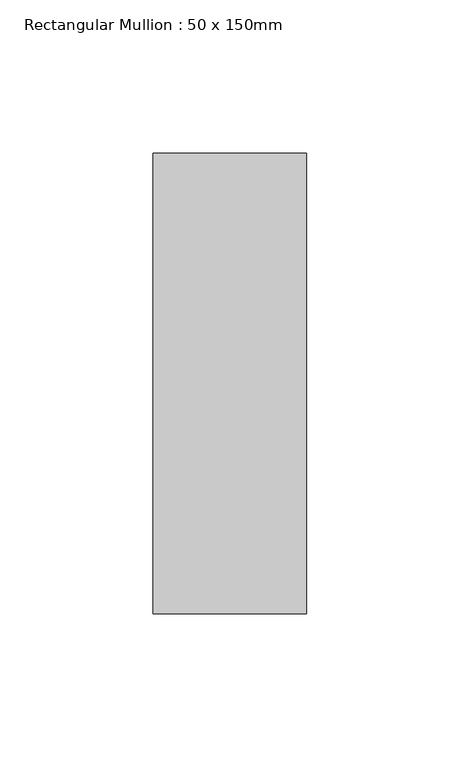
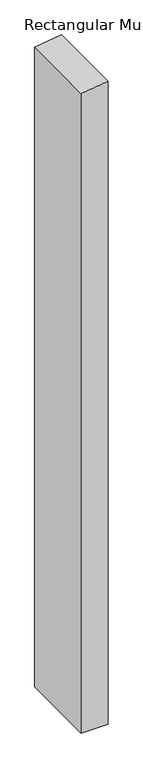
"""IFC4 building model written with IfcOpenShell, lengths in millimetres: member geometry, Rectangular Mullion : 50 x 150mm."""

import ifcopenshell
import ifcopenshell.guid

model = None  # the IFC model being written
_history = None  # IfcOwnerHistory: only IFC2X3 demands one
_inside = {}  # id of a spatial element -> (the spatial element, [elements in it])
_under = {}  # id of a project, library or spatial element -> (it, [spatial elements below it])
_declared = {}  # id of a project -> (the project, [libraries it declares])
_typed = {}  # id of a type object -> (the type object, [elements of that type])
_made_of = {}  # id of a material, layer set ... -> (it, [elements and type objects made of it])


def new_model(schema):
    """Start an empty IFC model of exactly this schema.

    Asked for "IFC4X3", IfcOpenShell would pick the latest addendum, in which some entities
    have other attributes; the version numbers below select the first issue.
    IFC2X3 requires an IfcOwnerHistory on every rooted entity: one is made here for all.
    """
    global model, _history
    if schema == "IFC4X3":
        model = ifcopenshell.file(schema_version=(4, 3, 0, 0))
    else:
        model = ifcopenshell.file(schema=schema)
    _inside.clear()
    _under.clear()
    _declared.clear()
    _typed.clear()
    _made_of.clear()
    _history = None
    if model.schema == "IFC2X3":
        org = make("IfcOrganization", Name="unknown")
        user = make(
            "IfcPersonAndOrganization",
            ThePerson=make("IfcPerson", FamilyName="unknown"),
            TheOrganization=org,
        )
        app = make(
            "IfcApplication",
            ApplicationDeveloper=org,
            Version="unknown",
            ApplicationFullName="unknown",
            ApplicationIdentifier="unknown",
        )
        _history = make(
            "IfcOwnerHistory",
            OwningUser=user,
            OwningApplication=app,
            ChangeAction="ADDED",
            CreationDate=0,
        )
    return model


def make(cls, **values):
    """One entity of the class cls with the attributes given. An attribute that is None is left unset."""
    return model.create_entity(
        cls, **{name: value for name, value in values.items() if value is not None}
    )


def rooted(cls, **values):
    """An entity with a GlobalId (a new one), such as an element, a storey or a relation."""
    return make(cls, GlobalId=ifcopenshell.guid.new(), OwnerHistory=_history, **values)


def si_unit(unit_type, name, prefix=None):
    """IfcSIUnit, for example si_unit("LENGTHUNIT", "METRE", prefix="MILLI")."""
    return make("IfcSIUnit", UnitType=unit_type, Prefix=prefix, Name=name)


def assignment(units):
    """IfcUnitAssignment: the units of a project."""
    return None if units is None else make("IfcUnitAssignment", Units=units)


def point(xyz):
    """IfcCartesianPoint."""
    return None if xyz is None else make("IfcCartesianPoint", Coordinates=xyz)


def direction(xyz):
    """IfcDirection."""
    return None if xyz is None else make("IfcDirection", DirectionRatios=xyz)


def frame(location, z_axis=None, x_axis=None):
    """IfcAxis2Placement3D, a coordinate frame: its origin and axes. An axis left out is left unset."""
    return make(
        "IfcAxis2Placement3D",
        Location=point(location),
        Axis=direction(z_axis),
        RefDirection=direction(x_axis),
    )


def origin():
    """The frame at (0, 0, 0) with its axes left unset."""
    return frame((0.0, 0.0, 0.0))


def place(relative_to, where):
    """IfcLocalPlacement: puts the frame where relative to a parent placement (None: the world)."""
    return make(
        "IfcLocalPlacement", PlacementRelTo=relative_to, RelativePlacement=where
    )


def context(
    kind, dimensions, precision=None, world=None, true_north=None, identifier=None
):
    """IfcGeometricRepresentationContext, for example the 3D "Model" context."""
    return make(
        "IfcGeometricRepresentationContext",
        ContextIdentifier=identifier,
        ContextType=kind,
        CoordinateSpaceDimension=dimensions,
        Precision=precision,
        WorldCoordinateSystem=world,
        TrueNorth=true_north,
    )


def project(units=None, contexts=None):
    """IfcProject with its units and contexts."""
    return rooted(
        "IfcProject",
        Name="project",
        RepresentationContexts=contexts,
        UnitsInContext=assignment(units),
    )


def spatial(cls, under=None, at=None, **own):
    """A site, building, storey or space (cls), placed at a placement, below another one or the project."""
    s = rooted(cls, ObjectPlacement=at, **own)
    if under is not None:
        _under.setdefault(under.id(), (under, []))[1].append(s)
    return s


def polyline(points):
    """IfcPolyline through the points."""
    return make("IfcPolyline", Points=[point(p) for p in points])


def outline(outer, holes=None, kind="AREA"):
    """IfcArbitraryClosedProfileDef: a profile drawn as a closed curve; with holes, ...WithVoids."""
    if holes is None:
        return make("IfcArbitraryClosedProfileDef", ProfileType=kind, OuterCurve=outer)
    return make(
        "IfcArbitraryProfileDefWithVoids",
        ProfileType=kind,
        OuterCurve=outer,
        InnerCurves=holes,
    )


def extrude(swept, where, along, depth):
    """IfcExtrudedAreaSolid: the profile swept, set in the frame where, extruded along a direction by depth."""
    return make(
        "IfcExtrudedAreaSolid",
        SweptArea=swept,
        Position=where,
        ExtrudedDirection=direction(along),
        Depth=depth,
    )


def shape(context_of_items, identifier, shape_type, items):
    """IfcShapeRepresentation: the items that make up one representation, for example the "Body"."""
    return make(
        "IfcShapeRepresentation",
        ContextOfItems=context_of_items,
        RepresentationIdentifier=identifier,
        RepresentationType=shape_type,
        Items=items,
    )


def source(mapping_origin, context_of_items, identifier, shape_type, items):
    """IfcRepresentationMap: a shape defined once, which mapped items show again and again."""
    return make(
        "IfcRepresentationMap",
        MappingOrigin=mapping_origin,
        MappedRepresentation=shape(context_of_items, identifier, shape_type, items),
    )


def transform(
    local_origin,
    x_axis=None,
    y_axis=None,
    z_axis=None,
    scale=None,
    scale2=None,
    scale3=None,
    uniform=True,
):
    """IfcCartesianTransformationOperator3D, or its non-uniform kind. x_axis, y_axis, z_axis: its Axis1, 2, 3."""
    if uniform:
        return make(
            "IfcCartesianTransformationOperator3D",
            Axis1=direction(x_axis),
            Axis2=direction(y_axis),
            LocalOrigin=point(local_origin),
            Scale=scale,
            Axis3=direction(z_axis),
        )
    return make(
        "IfcCartesianTransformationOperator3DnonUniform",
        Axis1=direction(x_axis),
        Axis2=direction(y_axis),
        LocalOrigin=point(local_origin),
        Scale=scale,
        Axis3=direction(z_axis),
        Scale2=scale2,
        Scale3=scale3,
    )


def mapped(mapping_source, mapping_target):
    """IfcMappedItem: shows the shape of a source again, moved by a transform."""
    return make(
        "IfcMappedItem", MappingSource=mapping_source, MappingTarget=mapping_target
    )


def made_of(thing, what):
    """Note that an element or type object is made of a material, layer set ...; save() writes the relation."""
    if what is not None:
        _made_of.setdefault(what.id(), (what, []))[1].append(thing)
    return thing


def element(
    cls,
    number,
    at=None,
    inside=None,
    cuts=None,
    type_object=None,
    material=None,
    context=None,
    identifier="Body",
    shape_type=None,
    held_by="IfcProductDefinitionShape",
    body=None,
    shapes=None,
    **own,
):
    """One element of the class cls, such as IfcWall. Its Tag is "e" and its number.

    at: its placement. inside: the storey or other place that contains it. cuts: it is an
    opening in that element (IfcRelVoidsElement). A single representation is given by context,
    identifier, shape_type and body (its items); several are given by shapes. held_by: the class
    of the entity that holds the representations. save() writes the other relations.
    """
    e = rooted(cls, Tag="e%d" % number, ObjectPlacement=at, **own)
    if body is not None:
        shapes = [shape(context, identifier, shape_type, body)]
    if shapes is not None:
        e.Representation = make(held_by, Representations=shapes)
    if inside is not None:
        _inside.setdefault(inside.id(), (inside, []))[1].append(e)
    if cuts is not None:
        rooted(
            "IfcRelVoidsElement", RelatingBuildingElement=cuts, RelatedOpeningElement=e
        )
    if type_object is not None:
        _typed.setdefault(type_object.id(), (type_object, []))[1].append(e)
    return made_of(e, material)


def aggregate(whole, parts):
    """IfcRelAggregates: a whole, such as a stair, and the parts it consists of."""
    return rooted("IfcRelAggregates", RelatingObject=whole, RelatedObjects=parts)


def save(model, path):
    """Write the relations noted so far, then the file.

    IfcRelAggregates (storeys below a building ...), IfcRelContainedInSpatialStructure (elements
    in a storey), IfcRelDefinesByType, IfcRelAssociatesMaterial and IfcRelDeclares: one each for
    every whole, place, type object, material and project.
    """
    for whole, parts in _under.values():
        aggregate(whole, parts)
    for where, things in _inside.values():
        rooted(
            "IfcRelContainedInSpatialStructure",
            RelatedElements=things,
            RelatingStructure=where,
        )
    for kind, things in _typed.values():
        rooted("IfcRelDefinesByType", RelatedObjects=things, RelatingType=kind)
    for what, things in _made_of.values():
        rooted("IfcRelAssociatesMaterial", RelatedObjects=things, RelatingMaterial=what)
    for by, libraries in _declared.values():
        rooted("IfcRelDeclares", RelatingContext=by, RelatedDefinitions=libraries)
    model.write(path)


def rectangular_mullion_50_x_150mm_71fdedb2(model_context):
    return source(origin(), model_context, "Body", "SweptSolid", [
        extrude(outline(polyline([(0.0, 0.0), (-7.2808618, -50.0), (-1267.7190961, -50.0), (-1267.7190961, 0.0), (0.0, 0.0)])), frame((0.0, -75.0, 0.0), z_axis=(0.0, 1.0, 0.0), x_axis=(0.0, 0.0, 1.0)), (0.0, 0.0, 1.0), 150.0),
    ])


if __name__ == "__main__":
    model = new_model("IFC4")
    model_context = context("Model", 3, world=origin())
    ifc_project = project(units=[si_unit("LENGTHUNIT", "METRE", prefix="MILLI")], contexts=[model_context])
    site = spatial("IfcSite", under=ifc_project)
    building = spatial("IfcBuilding", under=site)
    placement = place(None, origin())
    rectangular_mullion_50_x_150mm_shape = rectangular_mullion_50_x_150mm_71fdedb2(model_context)
    element("IfcMember", 1, ObjectType="Rectangular Mullion : 50 x 150mm", at=placement, inside=building, context=model_context, shape_type="MappedRepresentation", body=[
        mapped(rectangular_mullion_50_x_150mm_shape, transform((0.0, 0.0, 0.0), x_axis=(1.0, 0.0, 0.0), y_axis=(0.0, 1.0, 0.0), z_axis=(0.0, 0.0, 1.0))),
    ])
    save(model, "model.ifc")
